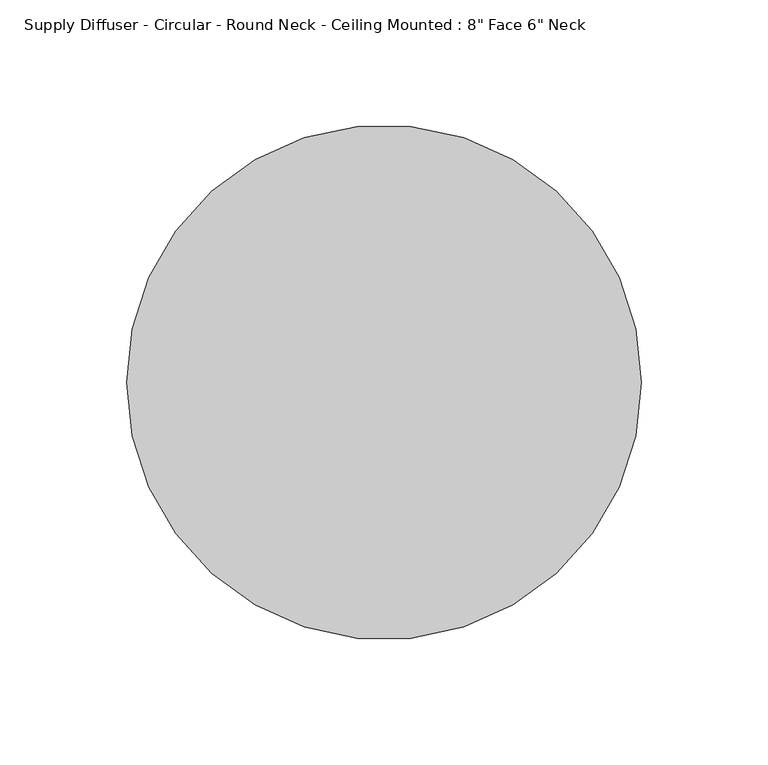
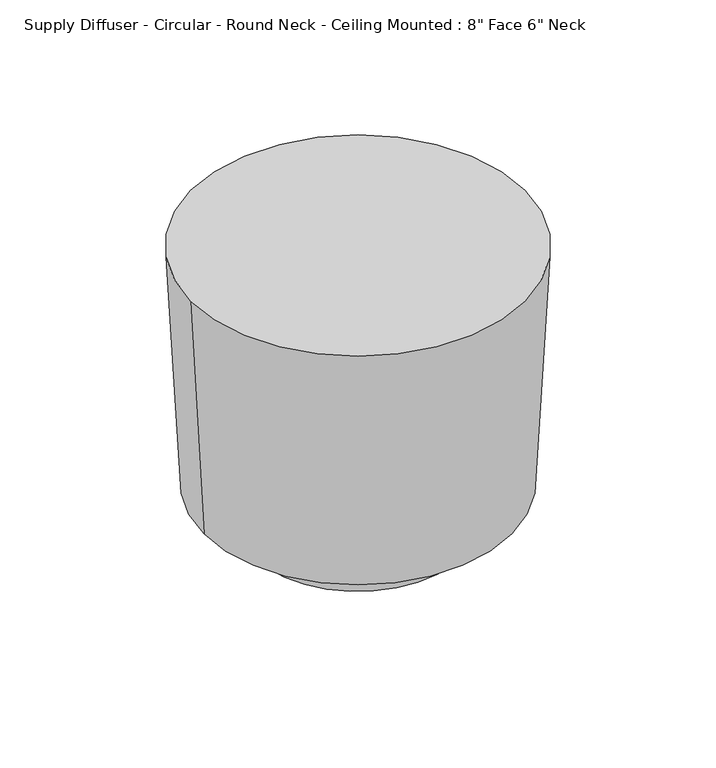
"""IFC4 building model written with IfcOpenShell, lengths in millimetres: air terminal geometry."""

import ifcopenshell
import ifcopenshell.guid

model = None  # the IFC model being written
_history = None  # IfcOwnerHistory: only IFC2X3 demands one
_inside = {}  # id of a spatial element -> (the spatial element, [elements in it])
_under = {}  # id of a project, library or spatial element -> (it, [spatial elements below it])
_declared = {}  # id of a project -> (the project, [libraries it declares])
_typed = {}  # id of a type object -> (the type object, [elements of that type])
_made_of = {}  # id of a material, layer set ... -> (it, [elements and type objects made of it])


def new_model(schema):
    """Start an empty IFC model of exactly this schema.

    Asked for "IFC4X3", IfcOpenShell would pick the latest addendum, in which some entities
    have other attributes; the version numbers below select the first issue.
    IFC2X3 requires an IfcOwnerHistory on every rooted entity: one is made here for all.
    """
    global model, _history
    if schema == "IFC4X3":
        model = ifcopenshell.file(schema_version=(4, 3, 0, 0))
    else:
        model = ifcopenshell.file(schema=schema)
    _inside.clear()
    _under.clear()
    _declared.clear()
    _typed.clear()
    _made_of.clear()
    _history = None
    if model.schema == "IFC2X3":
        org = make("IfcOrganization", Name="unknown")
        user = make(
            "IfcPersonAndOrganization",
            ThePerson=make("IfcPerson", FamilyName="unknown"),
            TheOrganization=org,
        )
        app = make(
            "IfcApplication",
            ApplicationDeveloper=org,
            Version="unknown",
            ApplicationFullName="unknown",
            ApplicationIdentifier="unknown",
        )
        _history = make(
            "IfcOwnerHistory",
            OwningUser=user,
            OwningApplication=app,
            ChangeAction="ADDED",
            CreationDate=0,
        )
    return model


def make(cls, **values):
    """One entity of the class cls with the attributes given. An attribute that is None is left unset."""
    return model.create_entity(
        cls, **{name: value for name, value in values.items() if value is not None}
    )


def rooted(cls, **values):
    """An entity with a GlobalId (a new one), such as an element, a storey or a relation."""
    return make(cls, GlobalId=ifcopenshell.guid.new(), OwnerHistory=_history, **values)


def si_unit(unit_type, name, prefix=None):
    """IfcSIUnit, for example si_unit("LENGTHUNIT", "METRE", prefix="MILLI")."""
    return make("IfcSIUnit", UnitType=unit_type, Prefix=prefix, Name=name)


def assignment(units):
    """IfcUnitAssignment: the units of a project."""
    return None if units is None else make("IfcUnitAssignment", Units=units)


def point(xyz):
    """IfcCartesianPoint."""
    return None if xyz is None else make("IfcCartesianPoint", Coordinates=xyz)


def direction(xyz):
    """IfcDirection."""
    return None if xyz is None else make("IfcDirection", DirectionRatios=xyz)


def frame(location, z_axis=None, x_axis=None):
    """IfcAxis2Placement3D, a coordinate frame: its origin and axes. An axis left out is left unset."""
    return make(
        "IfcAxis2Placement3D",
        Location=point(location),
        Axis=direction(z_axis),
        RefDirection=direction(x_axis),
    )


def frame_2d(location, x_axis=None):
    """IfcAxis2Placement2D, a coordinate frame in the plane: its origin and x axis."""
    return make(
        "IfcAxis2Placement2D", Location=point(location), RefDirection=direction(x_axis)
    )


def origin():
    """The frame at (0, 0, 0) with its axes left unset."""
    return frame((0.0, 0.0, 0.0))


def origin_with_axes():
    """The frame at (0, 0, 0) with the z axis (0, 0, 1) and the x axis (1, 0, 0) written out."""
    return frame((0.0, 0.0, 0.0), z_axis=(0.0, 0.0, 1.0), x_axis=(1.0, 0.0, 0.0))


def origin_2d():
    """The frame at (0, 0) in the plane with its x axis left unset."""
    return frame_2d((0.0, 0.0))


def place(relative_to, where):
    """IfcLocalPlacement: puts the frame where relative to a parent placement (None: the world)."""
    return make(
        "IfcLocalPlacement", PlacementRelTo=relative_to, RelativePlacement=where
    )


def context(
    kind, dimensions, precision=None, world=None, true_north=None, identifier=None
):
    """IfcGeometricRepresentationContext, for example the 3D "Model" context."""
    return make(
        "IfcGeometricRepresentationContext",
        ContextIdentifier=identifier,
        ContextType=kind,
        CoordinateSpaceDimension=dimensions,
        Precision=precision,
        WorldCoordinateSystem=world,
        TrueNorth=true_north,
    )


def project(units=None, contexts=None):
    """IfcProject with its units and contexts."""
    return rooted(
        "IfcProject",
        Name="project",
        RepresentationContexts=contexts,
        UnitsInContext=assignment(units),
    )


def spatial(cls, under=None, at=None, **own):
    """A site, building, storey or space (cls), placed at a placement, below another one or the project."""
    s = rooted(cls, ObjectPlacement=at, **own)
    if under is not None:
        _under.setdefault(under.id(), (under, []))[1].append(s)
    return s


def polyline(points):
    """IfcPolyline through the points."""
    return make("IfcPolyline", Points=[point(p) for p in points])


def circle_curve(where, radius):
    """IfcCircle in the frame where."""
    return make("IfcCircle", Position=where, Radius=radius)


def trimmed(basis, trim1, trim2, sense, master):
    """IfcTrimmedCurve: the piece of a basis curve between two trims."""
    return make(
        "IfcTrimmedCurve",
        BasisCurve=basis,
        Trim1=trim1,
        Trim2=trim2,
        SenseAgreement=sense,
        MasterRepresentation=master,
    )


def segment(curve, same_sense, transition):
    """IfcCompositeCurveSegment."""
    return make(
        "IfcCompositeCurveSegment",
        Transition=transition,
        SameSense=same_sense,
        ParentCurve=curve,
    )


def composite_curve(segments, self_intersect=None):
    """IfcCompositeCurve: segments joined end to end."""
    return make("IfcCompositeCurve", Segments=segments, SelfIntersect=self_intersect)


def outline(outer, holes=None, kind="AREA"):
    """IfcArbitraryClosedProfileDef: a profile drawn as a closed curve; with holes, ...WithVoids."""
    if holes is None:
        return make("IfcArbitraryClosedProfileDef", ProfileType=kind, OuterCurve=outer)
    return make(
        "IfcArbitraryProfileDefWithVoids",
        ProfileType=kind,
        OuterCurve=outer,
        InnerCurves=holes,
    )


def extrude(swept, where, along, depth):
    """IfcExtrudedAreaSolid: the profile swept, set in the frame where, extruded along a direction by depth."""
    return make(
        "IfcExtrudedAreaSolid",
        SweptArea=swept,
        Position=where,
        ExtrudedDirection=direction(along),
        Depth=depth,
    )


def shape(context_of_items, identifier, shape_type, items):
    """IfcShapeRepresentation: the items that make up one representation, for example the "Body"."""
    return make(
        "IfcShapeRepresentation",
        ContextOfItems=context_of_items,
        RepresentationIdentifier=identifier,
        RepresentationType=shape_type,
        Items=items,
    )


def source(mapping_origin, context_of_items, identifier, shape_type, items):
    """IfcRepresentationMap: a shape defined once, which mapped items show again and again."""
    return make(
        "IfcRepresentationMap",
        MappingOrigin=mapping_origin,
        MappedRepresentation=shape(context_of_items, identifier, shape_type, items),
    )


def transform(
    local_origin,
    x_axis=None,
    y_axis=None,
    z_axis=None,
    scale=None,
    scale2=None,
    scale3=None,
    uniform=True,
):
    """IfcCartesianTransformationOperator3D, or its non-uniform kind. x_axis, y_axis, z_axis: its Axis1, 2, 3."""
    if uniform:
        return make(
            "IfcCartesianTransformationOperator3D",
            Axis1=direction(x_axis),
            Axis2=direction(y_axis),
            LocalOrigin=point(local_origin),
            Scale=scale,
            Axis3=direction(z_axis),
        )
    return make(
        "IfcCartesianTransformationOperator3DnonUniform",
        Axis1=direction(x_axis),
        Axis2=direction(y_axis),
        LocalOrigin=point(local_origin),
        Scale=scale,
        Axis3=direction(z_axis),
        Scale2=scale2,
        Scale3=scale3,
    )


def mapped(mapping_source, mapping_target):
    """IfcMappedItem: shows the shape of a source again, moved by a transform."""
    return make(
        "IfcMappedItem", MappingSource=mapping_source, MappingTarget=mapping_target
    )


def made_of(thing, what):
    """Note that an element or type object is made of a material, layer set ...; save() writes the relation."""
    if what is not None:
        _made_of.setdefault(what.id(), (what, []))[1].append(thing)
    return thing


def element(
    cls,
    number,
    at=None,
    inside=None,
    cuts=None,
    type_object=None,
    material=None,
    context=None,
    identifier="Body",
    shape_type=None,
    held_by="IfcProductDefinitionShape",
    body=None,
    shapes=None,
    **own,
):
    """One element of the class cls, such as IfcWall. Its Tag is "e" and its number.

    at: its placement. inside: the storey or other place that contains it. cuts: it is an
    opening in that element (IfcRelVoidsElement). A single representation is given by context,
    identifier, shape_type and body (its items); several are given by shapes. held_by: the class
    of the entity that holds the representations. save() writes the other relations.
    """
    e = rooted(cls, Tag="e%d" % number, ObjectPlacement=at, **own)
    if body is not None:
        shapes = [shape(context, identifier, shape_type, body)]
    if shapes is not None:
        e.Representation = make(held_by, Representations=shapes)
    if inside is not None:
        _inside.setdefault(inside.id(), (inside, []))[1].append(e)
    if cuts is not None:
        rooted(
            "IfcRelVoidsElement", RelatingBuildingElement=cuts, RelatedOpeningElement=e
        )
    if type_object is not None:
        _typed.setdefault(type_object.id(), (type_object, []))[1].append(e)
    return made_of(e, material)


def aggregate(whole, parts):
    """IfcRelAggregates: a whole, such as a stair, and the parts it consists of."""
    return rooted("IfcRelAggregates", RelatingObject=whole, RelatedObjects=parts)


def save(model, path):
    """Write the relations noted so far, then the file.

    IfcRelAggregates (storeys below a building ...), IfcRelContainedInSpatialStructure (elements
    in a storey), IfcRelDefinesByType, IfcRelAssociatesMaterial and IfcRelDeclares: one each for
    every whole, place, type object, material and project.
    """
    for whole, parts in _under.values():
        aggregate(whole, parts)
    for where, things in _inside.values():
        rooted(
            "IfcRelContainedInSpatialStructure",
            RelatedElements=things,
            RelatingStructure=where,
        )
    for kind, things in _typed.values():
        rooted("IfcRelDefinesByType", RelatedObjects=things, RelatingType=kind)
    for what, things in _made_of.values():
        rooted("IfcRelAssociatesMaterial", RelatedObjects=things, RelatingMaterial=what)
    for by, libraries in _declared.values():
        rooted("IfcRelDeclares", RelatingContext=by, RelatedDefinitions=libraries)
    model.write(path)


def plane_surface(at):
    """IfcPlane: the flat surface through the origin of the frame at, square to its z axis."""
    return make("IfcPlane", Position=at)


def revolved_surface(curve, axis_point, axis_direction):
    """IfcSurfaceOfRevolution: the curve turned about the line through axis_point along axis_direction."""
    return make(
        "IfcSurfaceOfRevolution",
        SweptCurve=make("IfcArbitraryOpenProfileDef", ProfileType="CURVE", Curve=curve),
        AxisPosition=make("IfcAxis1Placement", Location=point(axis_point), Axis=direction(axis_direction)),
    )


def advanced_brep(points, edges, surfaces, faces):
    """IfcAdvancedBrep: a solid bounded by faces that lie on surfaces and meet in shared edges.

    An edge is (start, end): straight between two places in points (the first is 0);
    or (start, end, curve); or (start, end, curve, False) where it runs against its curve.
    A face is (place in surfaces, loops), or (place, loops, False) where it looks against
    its surface's normal. A loop lists edges by number (the first is 1), with a minus sign
    where the edge is run from its end to its start. The first loop is the outer one.
    """
    corners = [point(p) for p in points]
    vertices = [make("IfcVertexPoint", VertexGeometry=c) for c in corners]
    made = []
    for start, end, *more in edges:
        made.append(
            make(
                "IfcEdgeCurve",
                EdgeStart=vertices[start],
                EdgeEnd=vertices[end],
                EdgeGeometry=more[0] if more else make("IfcPolyline", Points=[corners[start], corners[end]]),
                SameSense=more[1] if len(more) > 1 else True,
            )
        )
    hull = []
    for where, loops, *sense in faces:
        bounds = []
        for j, loop in enumerate(loops):
            ring = [make("IfcOrientedEdge", EdgeElement=made[abs(k) - 1], Orientation=k > 0) for k in loop]
            bounds.append(
                make(
                    "IfcFaceOuterBound" if j == 0 else "IfcFaceBound",
                    Bound=make("IfcEdgeLoop", EdgeList=ring),
                    Orientation=True,
                )
            )
        hull.append(make("IfcAdvancedFace", Bounds=bounds, FaceSurface=surfaces[where], SameSense=sense[0] if sense else True))
    return make("IfcAdvancedBrep", Outer=make("IfcClosedShell", CfsFaces=hull))


def air_terminal_94ab58d3(model_context):
    return source(origin(), model_context, "Body", "SolidModel", [
        extrude(outline(composite_curve([segment(trimmed(circle_curve(origin_2d(), 63.5), [point((-63.5, 0.0))], [point((63.5, 0.0))], False, "CARTESIAN"), True, "CONTINUOUS"), segment(trimmed(circle_curve(origin_2d(), 63.5), [point((63.5, 0.0))], [point((-63.5, 0.0))], False, "CARTESIAN"), True, "CONTINUOUS")], self_intersect=False)), frame((0.0, 0.0, -177.8), z_axis=(0.0, 0.0, 1.0), x_axis=(1.0, 0.0, 0.0)), (0.0, 0.0, 1.0), 25.4),
        advanced_brep(
        [(-93.6625, 0.0, -152.4), (93.6625, 0.0, -152.4), (-101.6, 0.0, 0.0), (101.6, 0.0, 0.0)],
        [
            (0, 1, circle_curve(frame((0.0, 0.0, -152.4), z_axis=(0.0, 0.0, -1.0), x_axis=(-1.0, 0.0, 0.0)), 93.6625)),
            (1, 0, circle_curve(frame((0.0, 0.0, -152.4), z_axis=(0.0, 0.0, -1.0), x_axis=(1.0, 0.0, 0.0)), 93.6625)),
            (2, 3, circle_curve(origin_with_axes(), 101.6)),
            (3, 2, circle_curve(frame((0.0, 0.0, 0.0), z_axis=(0.0, 0.0, 1.0), x_axis=(-1.0, 0.0, 0.0)), 101.6)),
            (3, 1),
            (0, 2),
        ],
        [
            plane_surface(frame((0.0, 0.0, -152.4), z_axis=(0.0, 0.0, -1.0), x_axis=(0.0, -1.0, 0.0))),
            plane_surface(frame((0.0, 0.0, 0.0), z_axis=(0.0, 0.0, 1.0), x_axis=(0.0, -1.0, 0.0))),
            revolved_surface(polyline([(-93.6625, 0.0, -152.4000000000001), (-101.6, 0.0, 0.0)]), (0.0, 0.0, -1950.72), (0.0, 0.0, 1.0)),
            revolved_surface(polyline([(93.6625, 0.0, -152.4000000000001), (101.6, 0.0, 0.0)]), (0.0, 0.0, -1950.72), (0.0, 0.0, 1.0)),
        ],
        [
            (0, [[1, 2]]),
            (1, [[3, 4]]),
            (2, [[-4, 5, -1, 6]]),
            (3, [[-3, -6, -2, -5]]),
        ],
    ),
    ])


if __name__ == "__main__":
    model = new_model("IFC4")
    model_context = context("Model", 3, world=origin())
    ifc_project = project(units=[si_unit("LENGTHUNIT", "METRE", prefix="MILLI")], contexts=[model_context])
    site = spatial("IfcSite", under=ifc_project)
    building = spatial("IfcBuilding", under=site)
    placement = place(None, origin())
    air_terminal_shape = air_terminal_94ab58d3(model_context)
    element("IfcAirTerminal", 1, ObjectType="Supply Diffuser - Circular - Round Neck - Ceiling Mounted : 8\" Face 6\" Neck", at=placement, inside=building, context=model_context, shape_type="MappedRepresentation", body=[
        mapped(air_terminal_shape, transform((0.0, 0.0, 0.0), x_axis=(1.0, 0.0, 0.0), y_axis=(0.0, 1.0, 0.0), z_axis=(0.0, 0.0, 1.0))),
    ])
    save(model, "model.ifc")
